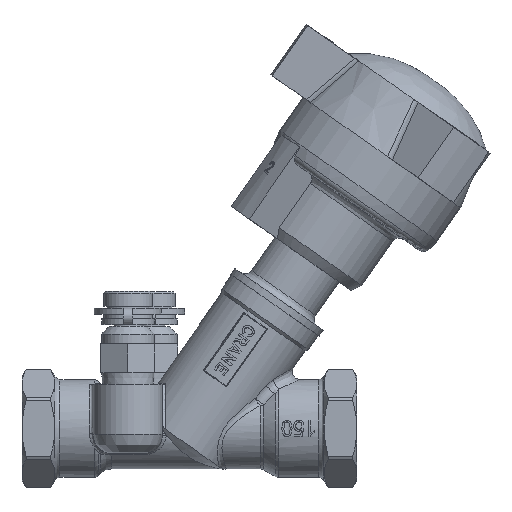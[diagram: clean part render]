
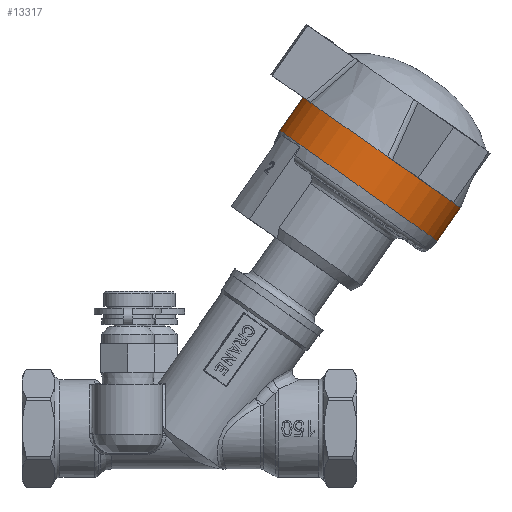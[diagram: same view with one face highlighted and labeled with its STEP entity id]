
A CAD part, top view. The second image highlights one B-rep face of the part: STEP entity #13317.
In plain terms, the highlighted cylindrical face has radius 25 mm (diameter 50 mm), a full revolution.
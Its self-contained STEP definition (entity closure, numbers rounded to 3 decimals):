
#13216=CARTESIAN_POINT('',(0.618,62.948,-24.999));
#13217=VERTEX_POINT('',#13216);
#13218=CARTESIAN_POINT('',(0.456,63.061,0.));
#13219=DIRECTION('',(0.574,0.819,0.));
#13220=DIRECTION('',(0.006,-0.005,-1.));
#13221=AXIS2_PLACEMENT_3D('',#13218,#13219,#13220);
#13222=CIRCLE('',#13221,25.);
#13223=EDGE_CURVE('',#13217,#13217,#13222,.T.);
#13298=CARTESIAN_POINT('',(4.184,68.385,0.));
#13299=DIRECTION('',(0.574,0.819,0.));
#13300=DIRECTION('',(0.006,-0.005,-1.));
#13301=AXIS2_PLACEMENT_3D('',#13298,#13299,#13300);
#13302=CYLINDRICAL_SURFACE('',#13301,25.);
#13303=ORIENTED_EDGE('',*,*,#13223,.T.);
#13304=EDGE_LOOP('',(#13303));
#13305=FACE_OUTER_BOUND('',#13304,.T.);
#13306=CARTESIAN_POINT('',(6.64,71.549,-24.999));
#13307=VERTEX_POINT('',#13306);
#13308=CARTESIAN_POINT('',(6.478,71.662,0.));
#13309=DIRECTION('',(0.574,0.819,0.));
#13310=DIRECTION('',(0.006,-0.005,-1.));
#13311=AXIS2_PLACEMENT_3D('',#13308,#13309,#13310);
#13312=CIRCLE('',#13311,25.);
#13313=EDGE_CURVE('',#13307,#13307,#13312,.T.);
#13314=ORIENTED_EDGE('',*,*,#13313,.F.);
#13315=EDGE_LOOP('',(#13314));
#13316=FACE_BOUND('',#13315,.T.);
#13317=ADVANCED_FACE('',(#13305,#13316),#13302,.T.);
